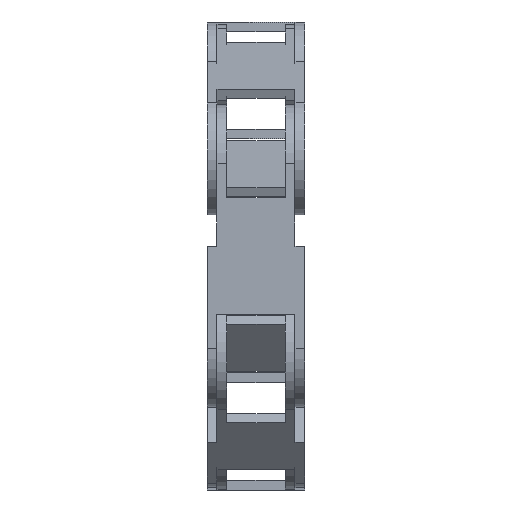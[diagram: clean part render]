
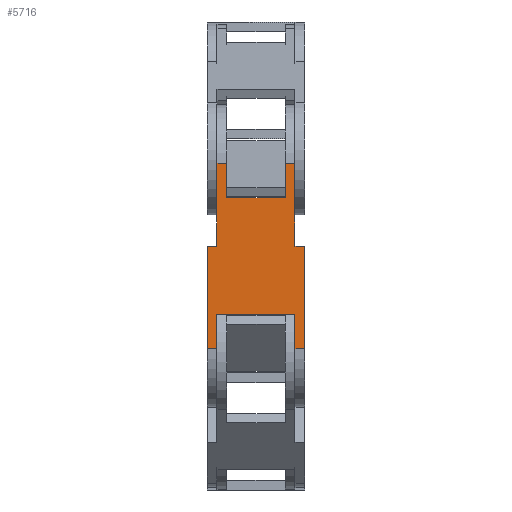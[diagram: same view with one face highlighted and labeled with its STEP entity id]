
A CAD part, left-side view. The second image highlights one B-rep face of the part: STEP entity #5716.
In plain terms, the highlighted planar face has unit normal (-1, 0, 0).
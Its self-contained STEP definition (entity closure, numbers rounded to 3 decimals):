
#180=PLANE('',#6177);
#396=FACE_OUTER_BOUND('',#705,.T.);
#705=EDGE_LOOP('',(#4136,#4137,#4138,#4139,#4140,#4141,#4142,#4143,#4144,
#4145,#4146,#4147,#4148,#4149,#4150,#4151));
#1087=LINE('',#8522,#1727);
#1096=LINE('',#8540,#1736);
#1102=LINE('',#8553,#1742);
#1107=LINE('',#8567,#1747);
#1111=LINE('',#8579,#1751);
#1113=LINE('',#8584,#1753);
#1115=LINE('',#8588,#1755);
#1116=LINE('',#8589,#1756);
#1117=LINE('',#8590,#1757);
#1118=LINE('',#8592,#1758);
#1119=LINE('',#8594,#1759);
#1120=LINE('',#8596,#1760);
#1121=LINE('',#8598,#1761);
#1122=LINE('',#8599,#1762);
#1123=LINE('',#8600,#1763);
#1124=LINE('',#8601,#1764);
#1727=VECTOR('',#6835,1.);
#1736=VECTOR('',#6848,1.);
#1742=VECTOR('',#6858,1.);
#1747=VECTOR('',#6869,1.);
#1751=VECTOR('',#6881,1.);
#1753=VECTOR('',#6885,1.);
#1755=VECTOR('',#6889,1.);
#1756=VECTOR('',#6890,1.);
#1757=VECTOR('',#6891,1.);
#1758=VECTOR('',#6892,1.);
#1759=VECTOR('',#6893,1.);
#1760=VECTOR('',#6894,1.);
#1761=VECTOR('',#6895,1.);
#1762=VECTOR('',#6896,1.);
#1763=VECTOR('',#6897,1.);
#1764=VECTOR('',#6898,1.);
#2567=VERTEX_POINT('',#8519);
#2568=VERTEX_POINT('',#8521);
#2574=VERTEX_POINT('',#8538);
#2575=VERTEX_POINT('',#8539);
#2579=VERTEX_POINT('',#8550);
#2580=VERTEX_POINT('',#8552);
#2585=VERTEX_POINT('',#8564);
#2586=VERTEX_POINT('',#8566);
#2588=VERTEX_POINT('',#8573);
#2590=VERTEX_POINT('',#8577);
#2591=VERTEX_POINT('',#8581);
#2593=VERTEX_POINT('',#8587);
#2594=VERTEX_POINT('',#8591);
#2595=VERTEX_POINT('',#8593);
#2596=VERTEX_POINT('',#8595);
#2597=VERTEX_POINT('',#8597);
#3160=EDGE_CURVE('',#2568,#2567,#1087,.T.);
#3169=EDGE_CURVE('',#2574,#2575,#1096,.T.);
#3176=EDGE_CURVE('',#2580,#2579,#1102,.T.);
#3183=EDGE_CURVE('',#2586,#2585,#1107,.T.);
#3188=EDGE_CURVE('',#2588,#2590,#1111,.T.);
#3190=EDGE_CURVE('',#2590,#2591,#1113,.T.);
#3192=EDGE_CURVE('',#2591,#2593,#1115,.T.);
#3193=EDGE_CURVE('',#2574,#2593,#1116,.T.);
#3194=EDGE_CURVE('',#2575,#2586,#1117,.T.);
#3195=EDGE_CURVE('',#2594,#2585,#1118,.T.);
#3196=EDGE_CURVE('',#2594,#2595,#1119,.T.);
#3197=EDGE_CURVE('',#2595,#2596,#1120,.T.);
#3198=EDGE_CURVE('',#2596,#2597,#1121,.T.);
#3199=EDGE_CURVE('',#2597,#2580,#1122,.T.);
#3200=EDGE_CURVE('',#2579,#2568,#1123,.T.);
#3201=EDGE_CURVE('',#2567,#2588,#1124,.T.);
#4136=ORIENTED_EDGE('',*,*,#3188,.T.);
#4137=ORIENTED_EDGE('',*,*,#3190,.T.);
#4138=ORIENTED_EDGE('',*,*,#3192,.T.);
#4139=ORIENTED_EDGE('',*,*,#3193,.F.);
#4140=ORIENTED_EDGE('',*,*,#3169,.T.);
#4141=ORIENTED_EDGE('',*,*,#3194,.T.);
#4142=ORIENTED_EDGE('',*,*,#3183,.T.);
#4143=ORIENTED_EDGE('',*,*,#3195,.F.);
#4144=ORIENTED_EDGE('',*,*,#3196,.T.);
#4145=ORIENTED_EDGE('',*,*,#3197,.T.);
#4146=ORIENTED_EDGE('',*,*,#3198,.T.);
#4147=ORIENTED_EDGE('',*,*,#3199,.T.);
#4148=ORIENTED_EDGE('',*,*,#3176,.T.);
#4149=ORIENTED_EDGE('',*,*,#3200,.T.);
#4150=ORIENTED_EDGE('',*,*,#3160,.T.);
#4151=ORIENTED_EDGE('',*,*,#3201,.T.);
#5716=ADVANCED_FACE('',(#396),#180,.T.);
#6177=AXIS2_PLACEMENT_3D('',#8586,#6887,#6888);
#6835=DIRECTION('',(0.,0.,1.));
#6848=DIRECTION('',(0.,0.,1.));
#6858=DIRECTION('',(0.,0.,-1.));
#6869=DIRECTION('',(0.,0.,-1.));
#6881=DIRECTION('',(0.,0.,-1.));
#6885=DIRECTION('',(0.,1.,0.));
#6887=DIRECTION('center_axis',(-1.,0.,0.));
#6888=DIRECTION('ref_axis',(0.,0.,1.));
#6889=DIRECTION('',(0.,0.,-1.));
#6890=DIRECTION('',(0.,1.,0.));
#6891=DIRECTION('',(0.,-1.,0.));
#6892=DIRECTION('',(0.,1.,0.));
#6893=DIRECTION('',(0.,0.,1.));
#6894=DIRECTION('',(0.,1.,0.));
#6895=DIRECTION('',(0.,0.,1.));
#6896=DIRECTION('',(0.,1.,0.));
#6897=DIRECTION('',(0.,1.,0.));
#6898=DIRECTION('',(0.,1.,0.));
#8519=CARTESIAN_POINT('',(-144.33,6.,27.5));
#8521=CARTESIAN_POINT('',(-144.33,6.,24.));
#8522=CARTESIAN_POINT('',(-144.33,6.,28.75));
#8538=CARTESIAN_POINT('',(-144.33,7.,8.5));
#8539=CARTESIAN_POINT('',(-144.33,7.,12.));
#8540=CARTESIAN_POINT('',(-144.33,7.,7.25));
#8550=CARTESIAN_POINT('',(-144.33,0.,24.));
#8552=CARTESIAN_POINT('',(-144.33,0.,27.5));
#8553=CARTESIAN_POINT('',(-144.33,0.,28.75));
#8564=CARTESIAN_POINT('',(-144.33,-1.,8.5));
#8566=CARTESIAN_POINT('',(-144.33,-1.,12.));
#8567=CARTESIAN_POINT('',(-144.33,-1.,7.25));
#8573=CARTESIAN_POINT('',(-144.33,7.,27.5));
#8577=CARTESIAN_POINT('',(-144.33,7.,19.));
#8579=CARTESIAN_POINT('',(-144.33,7.,26.25));
#8581=CARTESIAN_POINT('',(-144.33,8.,19.));
#8584=CARTESIAN_POINT('',(-144.33,2.75,19.));
#8586=CARTESIAN_POINT('Origin',(-144.33,-2.,18.));
#8587=CARTESIAN_POINT('',(-144.33,8.,8.5));
#8588=CARTESIAN_POINT('',(-144.33,8.,8.5));
#8589=CARTESIAN_POINT('',(-144.33,-2.,8.5));
#8590=CARTESIAN_POINT('',(-144.33,0.5,12.));
#8591=CARTESIAN_POINT('',(-144.33,-2.,8.5));
#8592=CARTESIAN_POINT('',(-144.33,-2.,8.5));
#8593=CARTESIAN_POINT('',(-144.33,-2.,19.));
#8594=CARTESIAN_POINT('',(-144.33,-2.,8.5));
#8595=CARTESIAN_POINT('',(-144.33,-1.,19.));
#8596=CARTESIAN_POINT('',(-144.33,-1.75,19.));
#8597=CARTESIAN_POINT('',(-144.33,-1.,27.5));
#8598=CARTESIAN_POINT('',(-144.33,-1.,26.25));
#8599=CARTESIAN_POINT('',(-144.33,-2.,27.5));
#8600=CARTESIAN_POINT('',(-144.33,0.5,24.));
#8601=CARTESIAN_POINT('',(-144.33,-2.,27.5));
